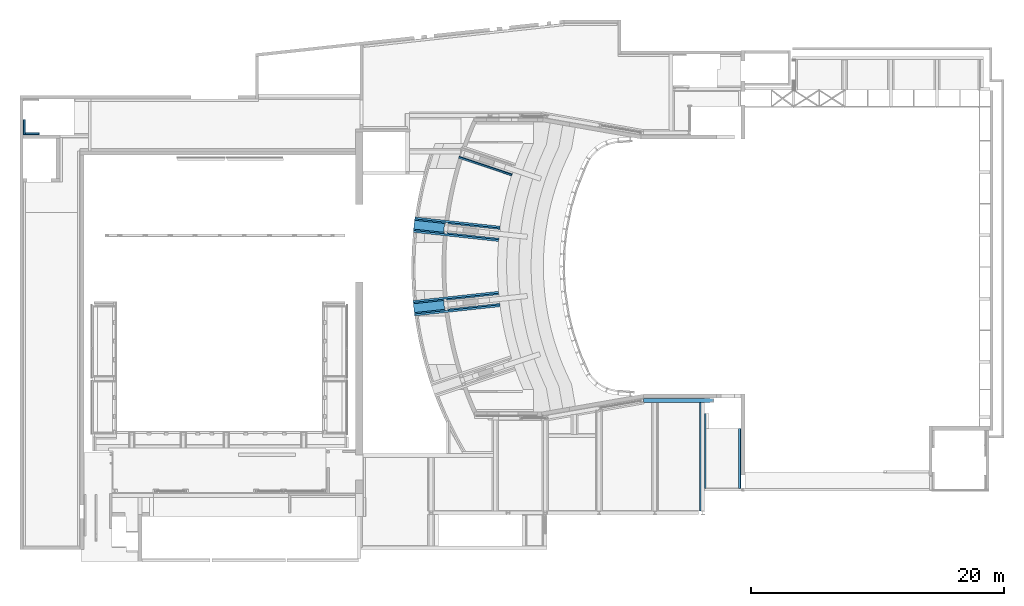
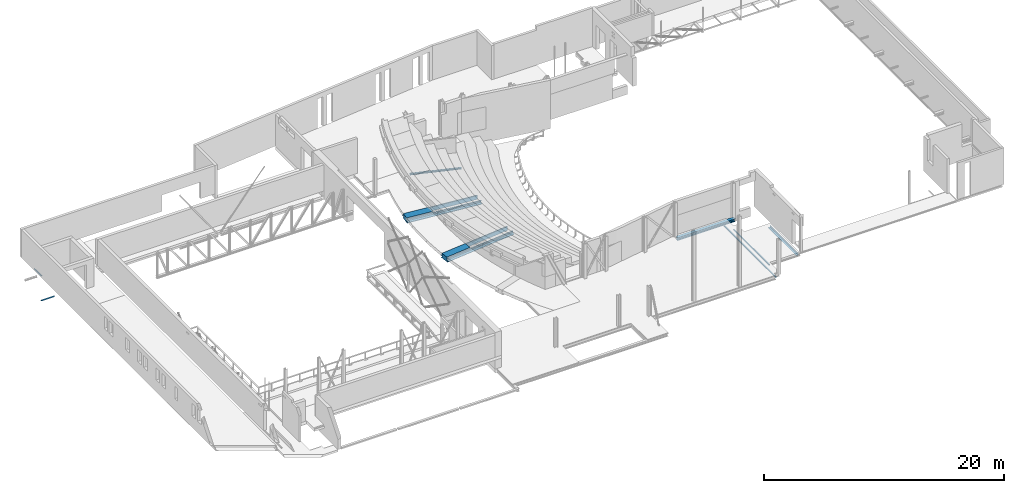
# One storey, part 25 of 68: 13 beams.
"""IFC2X3 building model written with IfcOpenShell, lengths in millimetres."""

from ifc_helpers import new_model, entity, si_unit, converted_unit, derived_unit, direction, frame, frame_2d, origin, origin_2d_with_axis, place, context, subcontext, project, spatial, polyline, circle_curve, parameter, trimmed, segment, composite_curve, rectangle, outline, extrude, source, transform, mapped, material, type_object, type_shapes, element, save


model = new_model("IFC2X3")

# Units and contexts
model_context = context("Model", 3, precision=0.01, world=origin(), true_north=direction((6.12303176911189e-17, 1.0)))
body_context = subcontext(model_context, "Body", "Model", "MODEL_VIEW")
ifc_project = project(units=[si_unit("LENGTHUNIT", "METRE", prefix="MILLI"), si_unit("AREAUNIT", "SQUARE_METRE", prefix="MILLI"), si_unit("VOLUMEUNIT", "CUBIC_METRE"), converted_unit("PLANEANGLEUNIT", "DEGREE", entity("IfcRatioMeasure", 0.0174532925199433), si_unit("PLANEANGLEUNIT", "RADIAN"), dimensions=[0, 0, 0, 0, 0, 0, 0]), si_unit("MASSUNIT", "GRAM", prefix="KILO"), derived_unit("MASSDENSITYUNIT", [(si_unit("MASSUNIT", "GRAM", prefix="KILO"), 1), (si_unit("LENGTHUNIT", "METRE"), -3)]), derived_unit("MOMENTOFINERTIAUNIT", [(si_unit("LENGTHUNIT", "METRE"), 4)]), si_unit("TIMEUNIT", "SECOND"), si_unit("FREQUENCYUNIT", "HERTZ"), si_unit("THERMODYNAMICTEMPERATUREUNIT", "DEGREE_CELSIUS"), derived_unit("THERMALTRANSMITTANCEUNIT", [(si_unit("MASSUNIT", "GRAM", prefix="KILO"), 1), (si_unit("THERMODYNAMICTEMPERATUREUNIT", "KELVIN"), -1), (si_unit("TIMEUNIT", "SECOND"), -3)]), derived_unit("VOLUMETRICFLOWRATEUNIT", [(si_unit("LENGTHUNIT", "METRE"), 3), (si_unit("TIMEUNIT", "SECOND"), -1)]), si_unit("ELECTRICCURRENTUNIT", "AMPERE"), si_unit("ELECTRICVOLTAGEUNIT", "VOLT"), si_unit("POWERUNIT", "WATT"), si_unit("FORCEUNIT", "NEWTON", prefix="KILO"), si_unit("ILLUMINANCEUNIT", "LUX"), si_unit("LUMINOUSFLUXUNIT", "LUMEN"), si_unit("LUMINOUSINTENSITYUNIT", "CANDELA"), derived_unit("USERDEFINED", [(si_unit("MASSUNIT", "GRAM", prefix="KILO"), -1), (si_unit("LENGTHUNIT", "METRE"), -2), (si_unit("TIMEUNIT", "SECOND"), 3), (si_unit("LUMINOUSFLUXUNIT", "LUMEN"), 1)]), derived_unit("LINEARVELOCITYUNIT", [(si_unit("LENGTHUNIT", "METRE"), 1), (si_unit("TIMEUNIT", "SECOND"), -1)]), si_unit("PRESSUREUNIT", "PASCAL"), derived_unit("USERDEFINED", [(si_unit("LENGTHUNIT", "METRE"), -2), (si_unit("MASSUNIT", "GRAM", prefix="KILO"), 1), (si_unit("TIMEUNIT", "SECOND"), -2)]), derived_unit("LINEARFORCEUNIT", [(si_unit("MASSUNIT", "GRAM", prefix="KILO"), 1), (si_unit("LENGTHUNIT", "METRE"), 1), (si_unit("TIMEUNIT", "SECOND"), -2), (si_unit("LENGTHUNIT", "METRE"), -1)]), derived_unit("PLANARFORCEUNIT", [(si_unit("MASSUNIT", "GRAM", prefix="KILO"), 1), (si_unit("LENGTHUNIT", "METRE"), 1), (si_unit("TIMEUNIT", "SECOND"), -2), (si_unit("LENGTHUNIT", "METRE"), -2)])], contexts=[model_context])

# Site, building, storey
site_placement = place(None, origin())
site = spatial("IfcSite", under=ifc_project, at=site_placement, Name="Theater aan de Parade", CompositionType="ELEMENT")
building_placement = place(site_placement, origin())
building = spatial("IfcBuilding", under=site, at=building_placement, Name="Theater aan de Parade", CompositionType="ELEMENT")
storey_placement = place(building_placement, frame((0.0, 0.0, 8750.0)))
storey = spatial("IfcBuildingStorey", under=building, at=storey_placement, Name="02 tweede verdieping", CompositionType="ELEMENT", Elevation=8750.0)

# Beams
ifc_material_1 = material(Name="00_PBT_MAT_staal_S355")
beam_type_1 = type_object("IfcBeamType", Name="28_PBT_SF_staal_H-profiel (void):S355_HE300B", PredefinedType="NOTDEFINED")
beam_1_placement = place(storey_placement, frame((59652.0520755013, 21855.0, 0.0)))
element("IfcBeam", 1, at=beam_1_placement, inside=storey, type_object=beam_type_1, material=ifc_material_1, Name="28_PBT_SF_staal_H-profiel (void):S355_HE300B", ObjectType="28_PBT_SF_staal_H-profiel (void):S355_HE300B", context=body_context, shape_type="SweptSolid", body=[
    extrude(outline(composite_curve([segment(polyline([(131.0, -150.0), (150.0, -150.0)]), True, "CONTINUOUS"), segment(polyline([(150.0, -150.0), (150.0, 150.0)]), True, "CONTINUOUS"), segment(polyline([(150.0, 150.0), (131.0, 150.0)]), True, "CONTINUOUS"), segment(polyline([(131.0, 150.0), (131.0, 32.5000000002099)]), True, "CONTINUOUS"), segment(trimmed(circle_curve(frame_2d((104.0, 32.5000000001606), x_axis=(1.0, 0.0)), 26.9999999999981), [parameter(269.999999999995)], [parameter(0.0)], True, "PARAMETER"), False, "CONTINUOUS"), segment(polyline([(104.0, 5.50000000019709), (-104.0, 5.49999999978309)]), True, "CONTINUOUS"), segment(trimmed(circle_curve(frame_2d((-104.0, 32.4999999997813), x_axis=(0.0, -1.0)), 26.9999999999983), [parameter(269.999999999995)], [parameter(0.0)], True, "PARAMETER"), False, "CONTINUOUS"), segment(polyline([(-131.0, 32.4999999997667), (-131.0, 150.0)]), True, "CONTINUOUS"), segment(polyline([(-131.0, 150.0), (-150.0, 150.0)]), True, "CONTINUOUS"), segment(polyline([(-150.0, 150.0), (-150.0, -150.0)]), True, "CONTINUOUS"), segment(polyline([(-150.0, -150.0), (-131.0, -150.0)]), True, "CONTINUOUS"), segment(polyline([(-131.0, -150.0), (-131.0, -32.5000000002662)]), True, "CONTINUOUS"), segment(trimmed(circle_curve(frame_2d((-104.0, -32.5000000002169), x_axis=(-1.0, 0.0)), 26.9999999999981), [parameter(269.999999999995)], [parameter(0.0)], True, "PARAMETER"), False, "CONTINUOUS"), segment(polyline([(-104.0, -5.50000000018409), (104.0, -5.4999999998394)]), True, "CONTINUOUS"), segment(trimmed(circle_curve(frame_2d((104.0, -32.4999999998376), x_axis=(0.0, 1.0)), 26.9999999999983), [parameter(269.999999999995)], [parameter(0.0)], True, "PARAMETER"), False, "CONTINUOUS"), segment(polyline([(131.0, -32.4999999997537), (131.0, -150.0)]), True, "CONTINUOUS")], self_intersect=False)), frame((0.0, 0.0, -310.0), z_axis=(1.0, 0.0, 0.0), x_axis=(0.0, 0.0, -1.0)), (0.0, 0.0, 1.0), 5560.0),
])
beam_type_2 = type_object("IfcBeamType", Name="28_PBT_SF_staal_L-profiel:S355_L150x150x15", PredefinedType="NOTDEFINED")
beam_2_placement = place(storey_placement, frame((45061.2657374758, 41135.370693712, 0.0), z_axis=(0.0, 0.0, 1.0), x_axis=(0.948323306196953, -0.317305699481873, 0.0)))
element("IfcBeam", 2, at=beam_2_placement, inside=storey, type_object=beam_type_2, material=ifc_material_1, Name="28_PBT_SF_staal_L-profiel:S355_L150x150x15", ObjectType="28_PBT_SF_staal_L-profiel:S355_L150x150x15", context=body_context, shape_type="SweptSolid", body=[
    extrude(outline(composite_curve([segment(polyline([(49.6666666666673, -93.3333333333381), (56.6666666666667, -93.3333333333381)]), True, "CONTINUOUS"), segment(polyline([(56.6666666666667, -93.3333333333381), (56.6666666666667, 56.6666666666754)]), True, "CONTINUOUS"), segment(polyline([(56.6666666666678, 56.6666666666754), (-93.3333333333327, 56.6666666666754)]), True, "CONTINUOUS"), segment(polyline([(-93.3333333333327, 56.6666666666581), (-93.3333333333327, 49.6666666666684)]), True, "CONTINUOUS"), segment(trimmed(circle_curve(frame_2d((-85.333333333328, 49.666666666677), x_axis=(-1.0, 0.0)), 8.00000000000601), [parameter(0.0)], [parameter(89.9999999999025)], True, "PARAMETER"), True, "CONTINUOUS"), segment(polyline([(-85.3333333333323, 41.6666666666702), (25.6666666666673, 41.6666666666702)]), True, "CONTINUOUS"), segment(trimmed(circle_curve(frame_2d((25.6666666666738, 25.6666666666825), x_axis=(0.0, 1.0)), 15.9999999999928), [parameter(269.999999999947)], [parameter(0.0)], True, "PARAMETER"), False, "CONTINUOUS"), segment(polyline([(41.6666666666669, 25.6666666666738), (41.6666666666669, -85.3333333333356)]), True, "CONTINUOUS"), segment(trimmed(circle_curve(frame_2d((49.666666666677, -85.3333333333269), x_axis=(-1.0, 0.0)), 8.00000000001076), [parameter(0.0)], [parameter(89.9999999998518)], True, "PARAMETER"), True, "CONTINUOUS")], self_intersect=False)), frame((0.0, -14.1666666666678, -338.333333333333), z_axis=(1.0, 0.0, 0.0), x_axis=(0.0, 0.0, -1.0)), (0.0, 0.0, 1.0), 4402.73853520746),
])
beam_3_placement = place(storey_placement, frame((10574.1125537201, 42912.5000000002, 0.0)))
element("IfcBeam", 3, at=beam_3_placement, inside=storey, type_object=beam_type_2, material=ifc_material_1, Name="28_PBT_SF_staal_L-profiel:S355_L150x150x15", ObjectType="28_PBT_SF_staal_L-profiel:S355_L150x150x15", context=body_context, shape_type="SweptSolid", body=[
    extrude(outline(composite_curve([segment(polyline([(-93.3333333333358, -56.6666666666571), (56.6666666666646, -56.6666666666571)]), True, "CONTINUOUS"), segment(polyline([(56.6666666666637, -56.6666666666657), (56.6666666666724, 93.3333333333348)]), True, "CONTINUOUS"), segment(polyline([(56.6666666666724, 93.3333333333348), (49.6666666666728, 93.3333333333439)]), True, "CONTINUOUS"), segment(trimmed(circle_curve(frame_2d((49.6666666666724, 85.3333333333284), x_axis=(0.0, 1.0)), 7.99999999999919), [parameter(0.0)], [parameter(90.0000000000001)], True, "PARAMETER"), True, "CONTINUOUS"), segment(polyline([(41.6666666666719, 85.3333333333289), (41.6666666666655, -25.6666666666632)]), True, "CONTINUOUS"), segment(trimmed(circle_curve(frame_2d((25.6666666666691, -25.666666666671), x_axis=(1.0, 0.0)), 15.9999999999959), [parameter(269.999999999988)], [parameter(0.0)], True, "PARAMETER"), False, "CONTINUOUS"), segment(polyline([(25.666666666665, -41.6666666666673), (-85.3333333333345, -41.6666666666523)]), True, "CONTINUOUS"), segment(trimmed(circle_curve(frame_2d((-85.3333333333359, -49.6666666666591), x_axis=(0.0, 1.0)), 7.99999999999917), [parameter(0.0)], [parameter(90.0000000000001)], True, "PARAMETER"), True, "CONTINUOUS"), segment(polyline([(-93.3333333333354, -49.6666666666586), (-93.3333333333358, -56.6666666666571)]), True, "CONTINUOUS")], self_intersect=False)), frame((0.0, 14.1666666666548, -2215.33333333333), z_axis=(1.0, 0.0, 0.0), x_axis=(0.0, 0.0, -1.0)), (0.0, 0.0, 1.0), 1251.73792658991),
])
beam_4_placement = place(storey_placement, frame((10596.6125542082, 42890.0, 0.0), z_axis=(0.0, 0.0, 1.0), x_axis=(0.0, 1.0, 0.0)))
element("IfcBeam", 4, at=beam_4_placement, inside=storey, type_object=beam_type_2, material=ifc_material_1, Name="28_PBT_SF_staal_L-profiel:S355_L150x150x15", ObjectType="28_PBT_SF_staal_L-profiel:S355_L150x150x15", context=body_context, shape_type="SweptSolid", body=[
    extrude(outline(composite_curve([segment(polyline([(49.6666666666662, -93.3333333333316), (56.6666666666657, -93.3333333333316)]), True, "CONTINUOUS"), segment(polyline([(56.6666666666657, -93.3333333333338), (56.6666666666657, 56.6666666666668)]), True, "CONTINUOUS"), segment(polyline([(56.6666666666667, 56.6666666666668), (-93.3333333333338, 56.6666666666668)]), True, "CONTINUOUS"), segment(polyline([(-93.3333333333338, 56.6666666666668), (-93.3333333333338, 49.6666666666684)]), True, "CONTINUOUS"), segment(trimmed(circle_curve(frame_2d((-85.3333333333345, 49.6666666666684), x_axis=(-1.0, 0.0)), 8.00000000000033), [parameter(0.0)], [parameter(90.0000000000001)], True, "PARAMETER"), True, "CONTINUOUS"), segment(polyline([(-85.3333333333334, 41.666666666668), (25.6666666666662, 41.666666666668)]), True, "CONTINUOUS"), segment(trimmed(circle_curve(frame_2d((25.6666666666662, 25.6666666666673), x_axis=(0.0, 1.0)), 15.9999999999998), [parameter(270.0)], [parameter(0.0)], True, "PARAMETER"), False, "CONTINUOUS"), segment(polyline([(41.6666666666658, 25.6666666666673), (41.6666666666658, -85.3333333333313)]), True, "CONTINUOUS"), segment(trimmed(circle_curve(frame_2d((49.6666666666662, -85.3333333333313), x_axis=(-1.0, 0.0)), 8.00000000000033), [parameter(0.0)], [parameter(90.0000000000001)], True, "PARAMETER"), True, "CONTINUOUS")], self_intersect=False)), frame((0.0, -14.1666666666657, 311.666666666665), z_axis=(1.0, 0.0, 0.0), x_axis=(0.0, 0.0, -1.0)), (0.0, 0.0, 1.0), 1180.00000000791),
])
beam_type_3 = type_object("IfcBeamType", Name="28_PBT_SF_staal_UNP-profiel_met_ingelaste_strip (void):S355_UNP400 + ingelaste strip_d=15", PredefinedType="BEAM", material=ifc_material_1)
shared_shape_1 = source(origin(), body_context, "Body", "SweptSolid", [
    extrude(outline(composite_curve([segment(polyline([(-200.0, -61.1666666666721), (200.0, -61.1666666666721)]), True, "CONTINUOUS"), segment(polyline([(200.0, -61.1666666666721), (200.0, 48.8333333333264)]), True, "CONTINUOUS"), segment(polyline([(200.0, 48.8333333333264), (191.0, 48.8333333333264)]), True, "CONTINUOUS"), segment(trimmed(circle_curve(frame_2d((191.0, 39.8333333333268), x_axis=(0.0, 1.0)), 8.99999999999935), [parameter(0.0)], [parameter(90.000000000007)], True, "PARAMETER"), True, "CONTINUOUS"), segment(polyline([(182.0, 39.8333333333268), (182.0, -29.1666666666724)]), True, "CONTINUOUS"), segment(trimmed(circle_curve(frame_2d((164.0, -29.1666666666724), x_axis=(1.0, 0.0)), 17.9999999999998), [parameter(270.0)], [parameter(0.0)], True, "PARAMETER"), False, "CONTINUOUS"), segment(polyline([(164.0, -47.1666666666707), (-164.0, -47.1666666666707)]), True, "CONTINUOUS"), segment(trimmed(circle_curve(frame_2d((-164.0, -29.1666666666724), x_axis=(0.0, -1.0)), 17.9999999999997), [parameter(270.0)], [parameter(0.0)], True, "PARAMETER"), False, "CONTINUOUS"), segment(polyline([(-182.0, -29.1666666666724), (-182.0, 39.8333333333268)]), True, "CONTINUOUS"), segment(trimmed(circle_curve(frame_2d((-191.0, 39.8333333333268), x_axis=(1.0, 0.0)), 8.99999999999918), [parameter(0.0)], [parameter(90.000000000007)], True, "PARAMETER"), True, "CONTINUOUS"), segment(polyline([(-191.0, 48.83333333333), (-200.0, 48.83333333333)]), True, "CONTINUOUS"), segment(polyline([(-200.0, 48.8333333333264), (-200.0, -61.1666666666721)]), True, "CONTINUOUS")], self_intersect=False)), frame((41522.1050774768, 28741.9320299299, 8395.0), z_axis=(0.994276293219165, 0.106839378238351, 0.0), x_axis=(0.0, 0.0, 1.0)), (0.0, 0.0, 1.0), 6797.87241481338),
    extrude(rectangle(XDim=15.0000000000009, YDim=246.000000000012, at=frame_2d((0.0, 4.68958205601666e-13), x_axis=(1.0, 0.0))), frame((41530.2070636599, 28666.5327443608, 8362.5), z_axis=(0.994276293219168, 0.106839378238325, 0.0), x_axis=(0.0, 0.0, 1.0)), (0.0, 0.0, 1.0), 6797.87241481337),
])
type_shapes(beam_type_3, [shared_shape_1])
beam_5_placement = place(storey_placement, frame((0.0, 0.0, -8750.0)))
element("IfcBeam", 5, at=beam_5_placement, inside=storey, type_object=beam_type_3, material=ifc_material_1, Name="28_PBT_SF_staal_UNP-profiel_met_ingelaste_strip (void):S355_UNP400 + ingelaste strip_d=15", ObjectType="28_PBT_SF_staal_UNP-profiel_met_ingelaste_strip (void):S355_UNP400 + ingelaste strip_d=15", context=body_context, shape_type="MappedRepresentation", body=[
    mapped(shared_shape_1, transform((0.0, 0.0, 0.0), scale=1.0)),
])
beam_type_4 = type_object("IfcBeamType", Name="28_PBT_SF_staal_UNP-profiel_met_ingelaste_strip (void):S355_UNP400 + ingelaste strip_d=15", PredefinedType="BEAM", material=ifc_material_1)
shared_shape_2 = source(origin(), body_context, "Body", "SweptSolid", [
    extrude(outline(composite_curve([segment(polyline([(-200.0, -48.8333333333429), (-191.0, -48.8333333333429)]), True, "CONTINUOUS"), segment(trimmed(circle_curve(frame_2d((-191.0, -39.8333333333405), x_axis=(0.0, -1.0)), 8.99999999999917), [parameter(0.0)], [parameter(90.000000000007)], True, "PARAMETER"), True, "CONTINUOUS"), segment(polyline([(-182.0, -39.8333333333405), (-182.0, 29.1666666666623)]), True, "CONTINUOUS"), segment(trimmed(circle_curve(frame_2d((-164.0, 29.1666666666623), x_axis=(-1.0, 0.0)), 17.9999999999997), [parameter(270.0)], [parameter(0.0)], True, "PARAMETER"), False, "CONTINUOUS"), segment(polyline([(-164.0, 47.1666666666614), (164.0, 47.166666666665)]), True, "CONTINUOUS"), segment(trimmed(circle_curve(frame_2d((164.0, 29.1666666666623), x_axis=(0.0, 1.0)), 17.9999999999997), [parameter(270.0)], [parameter(0.0)], True, "PARAMETER"), False, "CONTINUOUS"), segment(polyline([(182.0, 29.1666666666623), (182.0, -39.8333333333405)]), True, "CONTINUOUS"), segment(trimmed(circle_curve(frame_2d((191.0, -39.8333333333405), x_axis=(-1.0, 0.0)), 8.99999999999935), [parameter(0.0)], [parameter(90.000000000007)], True, "PARAMETER"), True, "CONTINUOUS"), segment(polyline([(191.0, -48.8333333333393), (200.0, -48.8333333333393)]), True, "CONTINUOUS"), segment(polyline([(200.0, -48.8333333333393), (200.0, 61.1666666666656)]), True, "CONTINUOUS"), segment(polyline([(200.0, 61.1666666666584), (-200.0, 61.1666666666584)]), True, "CONTINUOUS"), segment(polyline([(-200.0, 61.1666666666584), (-200.0, -48.8333333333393)]), True, "CONTINUOUS")], self_intersect=False)), frame((41431.8502133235, 29559.3009698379, 8395.0), z_axis=(0.994276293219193, 0.106839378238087, 0.0), x_axis=(0.0, 0.0, 1.0)), (0.0, 0.0, 1.0), 6800.92458355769),
    extrude(rectangle(XDim=14.9999999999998, YDim=246.000000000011, at=frame_2d((0.0, 2.62900812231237e-12), x_axis=(1.0, 0.0))), frame((41423.7482271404, 29634.700255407, 8362.5), z_axis=(0.994276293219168, 0.106839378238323, 0.0), x_axis=(0.0, 0.0, 1.0)), (0.0, 0.0, 1.0), 6800.92458355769),
])
type_shapes(beam_type_4, [shared_shape_2])
beam_6_placement = place(storey_placement, frame((0.0, 0.0, -8750.0)))
element("IfcBeam", 6, at=beam_6_placement, inside=storey, type_object=beam_type_4, material=ifc_material_1, Name="28_PBT_SF_staal_UNP-profiel_met_ingelaste_strip (void):S355_UNP400 + ingelaste strip_d=15", ObjectType="28_PBT_SF_staal_UNP-profiel_met_ingelaste_strip (void):S355_UNP400 + ingelaste strip_d=15", context=body_context, shape_type="MappedRepresentation", body=[
    mapped(shared_shape_2, transform((0.0, 0.0, 0.0), scale=1.0)),
])
beam_type_5 = type_object("IfcBeamType", Name="28_PBT_SF_staal_UNP-profiel_met_ingelaste_strip (void):S355_UNP400 + ingelaste strip_d=15", PredefinedType="BEAM", material=ifc_material_1)
shared_shape_3 = source(origin(), body_context, "Body", "SweptSolid", [
    extrude(outline(composite_curve([segment(polyline([(191.0, -48.8333333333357), (200.0, -48.8333333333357)]), True, "CONTINUOUS"), segment(polyline([(200.0, -48.8333333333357), (200.0, 61.1666666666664)]), True, "CONTINUOUS"), segment(polyline([(200.0, 61.1666666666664), (-200.0, 61.1666666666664)]), True, "CONTINUOUS"), segment(polyline([(-200.0, 61.1666666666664), (-200.0, -48.8333333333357)]), True, "CONTINUOUS"), segment(polyline([(-200.0, -48.8333333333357), (-191.0, -48.8333333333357)]), True, "CONTINUOUS"), segment(trimmed(circle_curve(frame_2d((-191.0, -39.8333333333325), x_axis=(0.0, -1.0)), 8.99999999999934), [parameter(0.0)], [parameter(90.000000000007)], True, "PARAMETER"), True, "CONTINUOUS"), segment(polyline([(-182.0, -39.8333333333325), (-182.0, 29.1666666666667)]), True, "CONTINUOUS"), segment(trimmed(circle_curve(frame_2d((-164.0, 29.1666666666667), x_axis=(-1.0, 0.0)), 17.9999999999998), [parameter(270.0)], [parameter(0.0)], True, "PARAMETER"), False, "CONTINUOUS"), segment(polyline([(-164.0, 47.166666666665), (164.0, 47.166666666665)]), True, "CONTINUOUS"), segment(trimmed(circle_curve(frame_2d((164.0, 29.1666666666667), x_axis=(0.0, 1.0)), 17.9999999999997), [parameter(270.0)], [parameter(0.0)], True, "PARAMETER"), False, "CONTINUOUS"), segment(polyline([(182.0, 29.1666666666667), (182.0, -39.8333333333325)]), True, "CONTINUOUS"), segment(trimmed(circle_curve(frame_2d((191.0, -39.8333333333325), x_axis=(-1.0, 0.0)), 8.99999999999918), [parameter(0.0)], [parameter(90.000000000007)], True, "PARAMETER"), True, "CONTINUOUS")], self_intersect=False)), frame((41450.3697208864, 35351.8750932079, 8395.0), z_axis=(0.994276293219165, -0.106839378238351, 0.0), x_axis=(0.0, 0.0, -1.0)), (0.0, 0.0, 1.0), 6789.35361616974),
    extrude(rectangle(XDim=15.0000000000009, YDim=246.000000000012, at=frame_2d((0.0, -4.68958205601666e-13), x_axis=(1.0, 0.0))), frame((41442.2677347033, 35276.4758076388, 8362.5), z_axis=(0.994276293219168, -0.106839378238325, 0.0), x_axis=(0.0, 0.0, -1.0)), (0.0, 0.0, 1.0), 6789.35361616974),
])
type_shapes(beam_type_5, [shared_shape_3])
beam_7_placement = place(storey_placement, frame((0.0, 0.0, -8750.0)))
element("IfcBeam", 7, at=beam_7_placement, inside=storey, type_object=beam_type_5, material=ifc_material_1, Name="28_PBT_SF_staal_UNP-profiel_met_ingelaste_strip (void):S355_UNP400 + ingelaste strip_d=15", ObjectType="28_PBT_SF_staal_UNP-profiel_met_ingelaste_strip (void):S355_UNP400 + ingelaste strip_d=15", context=body_context, shape_type="MappedRepresentation", body=[
    mapped(shared_shape_3, transform((0.0, 0.0, 0.0), scale=1.0)),
])
beam_type_6 = type_object("IfcBeamType", Name="28_PBT_SF_staal_UNP-profiel_met_ingelaste_strip (void):S355_UNP400 + ingelaste strip_d=15", PredefinedType="BEAM", material=ifc_material_1)
shared_shape_4 = source(origin(), body_context, "Body", "SweptSolid", [
    extrude(outline(composite_curve([segment(polyline([(-200.0, -61.1666666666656), (200.0, -61.1666666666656)]), True, "CONTINUOUS"), segment(polyline([(200.0, -61.1666666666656), (200.0, 48.8333333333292)]), True, "CONTINUOUS"), segment(polyline([(200.0, 48.8333333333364), (191.0, 48.8333333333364)]), True, "CONTINUOUS"), segment(trimmed(circle_curve(frame_2d((191.0, 39.8333333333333), x_axis=(0.0, 1.0)), 8.99999999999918), [parameter(0.0)], [parameter(90.000000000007)], True, "PARAMETER"), True, "CONTINUOUS"), segment(polyline([(182.0, 39.8333333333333), (182.0, -29.1666666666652)]), True, "CONTINUOUS"), segment(trimmed(circle_curve(frame_2d((164.0, -29.1666666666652), x_axis=(1.0, 0.0)), 17.9999999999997), [parameter(270.0)], [parameter(0.0)], True, "PARAMETER"), False, "CONTINUOUS"), segment(polyline([(164.0, -47.1666666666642), (-164.0, -47.1666666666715)]), True, "CONTINUOUS"), segment(trimmed(circle_curve(frame_2d((-164.0, -29.1666666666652), x_axis=(0.0, -1.0)), 17.9999999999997), [parameter(270.0)], [parameter(0.0)], True, "PARAMETER"), False, "CONTINUOUS"), segment(polyline([(-182.0, -29.1666666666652), (-182.0, 39.8333333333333)]), True, "CONTINUOUS"), segment(trimmed(circle_curve(frame_2d((-191.0, 39.8333333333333), x_axis=(1.0, 0.0)), 8.99999999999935), [parameter(0.0)], [parameter(90.000000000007)], True, "PARAMETER"), True, "CONTINUOUS"), segment(polyline([(-191.0, 48.8333333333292), (-200.0, 48.8333333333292)]), True, "CONTINUOUS"), segment(polyline([(-200.0, 48.8333333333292), (-200.0, -61.1666666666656)]), True, "CONTINUOUS")], self_intersect=False)), frame((41543.3012066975, 36168.9564182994, 8395.0), z_axis=(0.994276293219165, -0.106839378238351, 0.0), x_axis=(0.0, 0.0, -1.0)), (0.0, 0.0, 1.0), 6784.94307303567),
    extrude(rectangle(XDim=14.9999999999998, YDim=246.000000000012, at=frame_2d((0.0, 4.77484718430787e-12), x_axis=(1.0, 0.0))), frame((41551.4031928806, 36244.3557038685, 8362.5), z_axis=(0.994276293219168, -0.106839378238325, 0.0), x_axis=(0.0, 0.0, -1.0)), (0.0, 0.0, 1.0), 6784.94307303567),
])
type_shapes(beam_type_6, [shared_shape_4])
beam_8_placement = place(storey_placement, frame((0.0, 0.0, -8750.0)))
element("IfcBeam", 8, at=beam_8_placement, inside=storey, type_object=beam_type_6, material=ifc_material_1, Name="28_PBT_SF_staal_UNP-profiel_met_ingelaste_strip (void):S355_UNP400 + ingelaste strip_d=15", ObjectType="28_PBT_SF_staal_UNP-profiel_met_ingelaste_strip (void):S355_UNP400 + ingelaste strip_d=15", context=body_context, shape_type="MappedRepresentation", body=[
    mapped(shared_shape_4, transform((0.0, 0.0, 0.0), scale=1.0)),
])
beam_type_7 = type_object("IfcBeamType", Name="28_PBT_SF_staal_L-profiel:S355_L200x200x20", PredefinedType="NOTDEFINED")
beam_9_placement = place(storey_placement, frame((67299.4561009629, 14780.0, 0.0), z_axis=(0.0, 0.0, 1.0), x_axis=(0.0, 1.0, 0.0)))
element("IfcBeam", 9, at=beam_9_placement, inside=storey, type_object=beam_type_7, material=ifc_material_1, Name="28_PBT_SF_staal_L-profiel:S355_L200x200x20", ObjectType="28_PBT_SF_staal_L-profiel:S355_L200x200x20", context=body_context, shape_type="SweptSolid", body=[
    extrude(outline(composite_curve([segment(polyline([(-124.444444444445, -75.5555555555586), (75.5555555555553, -75.5555555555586)]), True, "CONTINUOUS"), segment(polyline([(75.5555555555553, -75.5555555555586), (75.5555555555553, 124.444444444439)]), True, "CONTINUOUS"), segment(polyline([(75.5555555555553, 124.444444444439), (64.5555555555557, 124.444444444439)]), True, "CONTINUOUS"), segment(trimmed(circle_curve(frame_2d((64.5555555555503, 115.444444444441), x_axis=(0.0, 1.0)), 8.99999999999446), [parameter(0.0)], [parameter(90.0000000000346)], True, "PARAMETER"), True, "CONTINUOUS"), segment(polyline([(55.5555555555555, 115.444444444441), (55.5555555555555, -37.5555555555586)]), True, "CONTINUOUS"), segment(trimmed(circle_curve(frame_2d((37.5555555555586, -37.5555555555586), x_axis=(1.0, 0.0)), 17.9999999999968), [parameter(269.99999999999)], [parameter(0.0)], True, "PARAMETER"), False, "CONTINUOUS"), segment(polyline([(37.5555555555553, -55.5555555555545), (-115.444444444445, -55.5555555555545)]), True, "CONTINUOUS"), segment(trimmed(circle_curve(frame_2d((-115.44444444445, -64.5555555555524), x_axis=(0.0, 1.0)), 8.99999999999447), [parameter(0.0)], [parameter(90.0000000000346)], True, "PARAMETER"), True, "CONTINUOUS"), segment(polyline([(-124.444444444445, -64.5555555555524), (-124.444444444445, -75.5555555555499)]), True, "CONTINUOUS")], self_intersect=False)), frame((112.699999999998, 18.7555555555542, -409.444444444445), z_axis=(1.0, 0.0, 0.0), x_axis=(0.0, 0.0, -1.0)), (0.0, 0.0, 1.0), 4728.11348587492),
])
ifc_material_2 = material(Name="00_PBT_MAT_staal_S235")
beam_type_8 = type_object("IfcBeamType", Name="28_PBT_SF_staal_koker:S235_K80x120x6.3", PredefinedType="NOTDEFINED")
beam_10_placement = place(storey_placement, frame((64074.5520755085, 21705.0, 0.0), z_axis=(0.0, 0.0, 1.0), x_axis=(0.0, -1.0, 0.0)))
element("IfcBeam", 10, at=beam_10_placement, inside=storey, type_object=beam_type_8, material=ifc_material_2, Name="28_PBT_SF_staal_koker:S235_K80x120x6.3", ObjectType="28_PBT_SF_staal_koker:S235_K80x120x6.3", context=body_context, shape_type="SweptSolid", body=[
    extrude(outline(composite_curve([segment(polyline([(-30.5499999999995, -60.0), (30.5500000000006, -60.0)]), True, "CONTINUOUS"), segment(trimmed(circle_curve(frame_2d((30.5500000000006, -50.5499999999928), x_axis=(0.0, 1.0)), 9.45), [parameter(180.0)], [parameter(270.0)], True, "PARAMETER"), True, "CONTINUOUS"), segment(polyline([(40.0, -50.5499999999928), (40.0, 50.5500000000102)]), True, "CONTINUOUS"), segment(trimmed(circle_curve(frame_2d((30.5500000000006, 50.5500000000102), x_axis=(0.0, 1.0)), 9.45), [parameter(270.0)], [parameter(360.0)], True, "PARAMETER"), True, "CONTINUOUS"), segment(polyline([(30.5500000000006, 60.0), (-30.5499999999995, 60.0)]), True, "CONTINUOUS"), segment(trimmed(circle_curve(frame_2d((-30.5499999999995, 50.5500000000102), x_axis=(0.0, 1.0)), 9.45), [parameter(0.0)], [parameter(90.0000000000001)], True, "PARAMETER"), True, "CONTINUOUS"), segment(polyline([(-40.0, 50.5500000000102), (-40.0, -50.5499999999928)]), True, "CONTINUOUS"), segment(trimmed(circle_curve(frame_2d((-30.5499999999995, -50.5499999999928), x_axis=(0.0, 1.0)), 9.45), [parameter(90.0)], [parameter(180.0)], True, "PARAMETER"), True, "CONTINUOUS")], self_intersect=False), holes=[composite_curve([segment(polyline([(33.700000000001, 47.4000000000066), (33.700000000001, -47.3999999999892)]), True, "CONTINUOUS"), segment(trimmed(circle_curve(frame_2d((27.4000000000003, -47.3999999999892), x_axis=(0.0, 1.0)), 6.3), [parameter(180.0)], [parameter(270.0)], True, "PARAMETER"), False, "CONTINUOUS"), segment(polyline([(27.4000000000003, -53.6999999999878), (-27.3999999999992, -53.6999999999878)]), True, "CONTINUOUS"), segment(trimmed(circle_curve(frame_2d((-27.3999999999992, -47.3999999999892), x_axis=(0.0, 1.0)), 6.3), [parameter(90.0)], [parameter(180.0)], True, "PARAMETER"), False, "CONTINUOUS"), segment(polyline([(-33.6999999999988, -47.3999999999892), (-33.6999999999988, 47.4000000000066)]), True, "CONTINUOUS"), segment(trimmed(circle_curve(frame_2d((-27.3999999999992, 47.4000000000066), x_axis=(0.0, 1.0)), 6.3), [parameter(4.07110999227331e-13)], [parameter(90.0000000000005)], True, "PARAMETER"), False, "CONTINUOUS"), segment(polyline([(-27.3999999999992, 53.7000000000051), (27.4000000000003, 53.7000000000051)]), True, "CONTINUOUS"), segment(trimmed(circle_curve(frame_2d((27.4000000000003, 47.4000000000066), x_axis=(0.0, 1.0)), 6.3), [parameter(270.0)], [parameter(360.0)], True, "PARAMETER"), False, "CONTINUOUS")], self_intersect=False)]), frame((0.0, 60.0, -505.0), z_axis=(1.0, 0.0, 0.0), x_axis=(0.0, 0.0, 1.0)), (0.0, 0.0, 1.0), 8600.00000000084),
])
beam_11_placement = place(storey_placement, frame((64614.5520755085, 20830.406742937, 0.0), z_axis=(0.0, 0.0, 1.0), x_axis=(0.0, -1.0, 0.0)))
element("IfcBeam", 11, at=beam_11_placement, inside=storey, type_object=beam_type_8, material=ifc_material_2, Name="28_PBT_SF_staal_koker:S235_K80x120x6.3", ObjectType="28_PBT_SF_staal_koker:S235_K80x120x6.3", context=body_context, shape_type="SweptSolid", body=[
    extrude(outline(composite_curve([segment(trimmed(circle_curve(frame_2d((-50.5500000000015, -30.5499999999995), x_axis=(1.0, 0.0)), 9.45), [parameter(180.0)], [parameter(270.0)], True, "PARAMETER"), True, "CONTINUOUS"), segment(polyline([(-50.5500000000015, -40.0), (50.5500000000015, -40.0)]), True, "CONTINUOUS"), segment(trimmed(circle_curve(frame_2d((50.5500000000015, -30.5499999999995), x_axis=(1.0, 0.0)), 9.45), [parameter(270.0)], [parameter(0.0)], True, "PARAMETER"), True, "CONTINUOUS"), segment(polyline([(60.0, -30.5499999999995), (60.0, 30.5500000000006)]), True, "CONTINUOUS"), segment(trimmed(circle_curve(frame_2d((50.5500000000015, 30.5500000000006), x_axis=(1.0, 0.0)), 9.45), [parameter(3.56222124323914e-13)], [parameter(90.0000000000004)], True, "PARAMETER"), True, "CONTINUOUS"), segment(polyline([(50.5500000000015, 40.0), (-50.5500000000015, 40.0)]), True, "CONTINUOUS"), segment(trimmed(circle_curve(frame_2d((-50.5500000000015, 30.5500000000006), x_axis=(1.0, 0.0)), 9.45), [parameter(90.0000000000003)], [parameter(180.0)], True, "PARAMETER"), True, "CONTINUOUS"), segment(polyline([(-60.0, 30.5500000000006), (-60.0, -30.5499999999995)]), True, "CONTINUOUS")], self_intersect=False), holes=[composite_curve([segment(trimmed(circle_curve(frame_2d((47.3999999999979, 27.4000000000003), x_axis=(1.0, 0.0)), 6.3), [parameter(5.08888749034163e-14)], [parameter(90.0000000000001)], True, "PARAMETER"), False, "CONTINUOUS"), segment(polyline([(53.6999999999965, 27.4000000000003), (53.6999999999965, -27.3999999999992)]), True, "CONTINUOUS"), segment(trimmed(circle_curve(frame_2d((47.3999999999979, -27.3999999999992), x_axis=(1.0, 0.0)), 6.3), [parameter(269.999999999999)], [parameter(360.0)], True, "PARAMETER"), False, "CONTINUOUS"), segment(polyline([(47.3999999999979, -33.6999999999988), (-47.3999999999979, -33.6999999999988)]), True, "CONTINUOUS"), segment(trimmed(circle_curve(frame_2d((-47.3999999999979, -27.3999999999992), x_axis=(1.0, 0.0)), 6.3), [parameter(180.0)], [parameter(270.0)], True, "PARAMETER"), False, "CONTINUOUS"), segment(polyline([(-53.6999999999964, -27.3999999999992), (-53.6999999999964, 27.4000000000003)]), True, "CONTINUOUS"), segment(trimmed(circle_curve(frame_2d((-47.3999999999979, 27.4000000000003), x_axis=(1.0, 0.0)), 6.3), [parameter(89.9999999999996)], [parameter(180.0)], True, "PARAMETER"), False, "CONTINUOUS"), segment(polyline([(-47.3999999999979, 33.700000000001), (47.3999999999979, 33.700000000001)]), True, "CONTINUOUS")], self_intersect=False)]), frame((0.0, -60.0, -505.0), z_axis=(1.0, 0.0, 0.0), x_axis=(0.0, 1.0, 0.0)), (0.0, 0.0, 1.0), 5950.40674293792),
])
ifc_material_3 = material(Name="00_PBT_MAT_beton t.p.g._C30/37")
beam_type_9 = type_object("IfcBeamType", Name="28_PBT_SF_betonbalk:C30/37_700x475", PredefinedType="NOTDEFINED")
beam_12_placement = place(storey_placement, frame((41495.966015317, 35760.5091818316, 0.0), z_axis=(0.0, 0.0, 1.0), x_axis=(0.994276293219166, -0.106839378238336, 0.0)))
element("IfcBeam", 12, at=beam_12_placement, inside=storey, type_object=beam_type_9, material=ifc_material_3, Name="28_PBT_SF_betonbalk:C30/37_700x475", ObjectType="28_PBT_SF_betonbalk:C30/37_700x475", context=body_context, shape_type="SweptSolid", body=[
    extrude(rectangle(XDim=475.0, YDim=700.000000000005, at=origin_2d_with_axis()), frame((0.0, 0.0, -317.500000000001), z_axis=(1.0, 0.0, 0.0), x_axis=(0.0, 0.0, -1.0)), (0.0, 0.0, 1.0), 2391.64281262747),
])
beam_13_placement = place(storey_placement, frame((41476.108328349, 29150.523087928, 0.0), z_axis=(0.0, 0.0, 1.0), x_axis=(0.994276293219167, 0.106839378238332, 0.0)))
element("IfcBeam", 13, at=beam_13_placement, inside=storey, type_object=beam_type_9, material=ifc_material_3, Name="28_PBT_SF_betonbalk:C30/37_700x475", ObjectType="28_PBT_SF_betonbalk:C30/37_700x475", context=body_context, shape_type="SweptSolid", body=[
    extrude(rectangle(XDim=475.0, YDim=700.000000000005, at=origin_2d_with_axis()), frame((0.0, 0.0, -317.500000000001), z_axis=(1.0, 0.0, 0.0), x_axis=(0.0, 0.0, -1.0)), (0.0, 0.0, 1.0), 2410.208982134),
])

save(model, "model.ifc")
